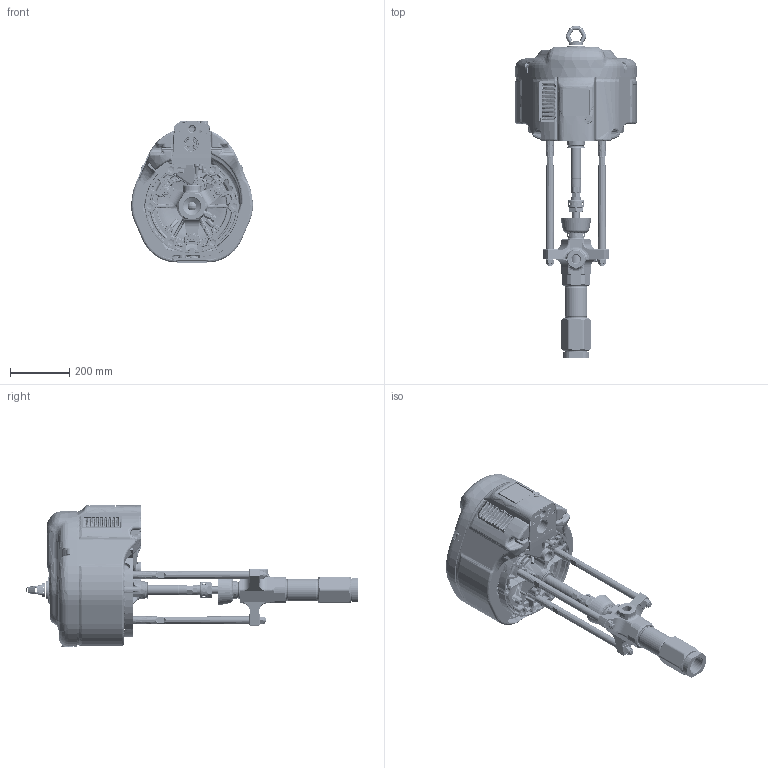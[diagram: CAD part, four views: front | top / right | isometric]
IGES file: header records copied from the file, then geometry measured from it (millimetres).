
Start section:  PTC IGES file: p45css-en-a.igs
Global section: file name: p45css-en-a.igs; native system: Creo Parametric by PTC Inc.; preprocessor: 2019030; author: qusrh3; organization: Unknown; date: 20200528.135419; units: inch
Bounding box: 410.21 x 1119.35 x 482.04 mm (x, y, z)
Surface area: 3603536.8 mm2 (no closed solid volume)
Topology: 0 solids, 0 shells, 6250 faces, 37389 edges, 37366 vertices
Faces by surface type: revolution 3165, bspline 3064, extrusion 21
